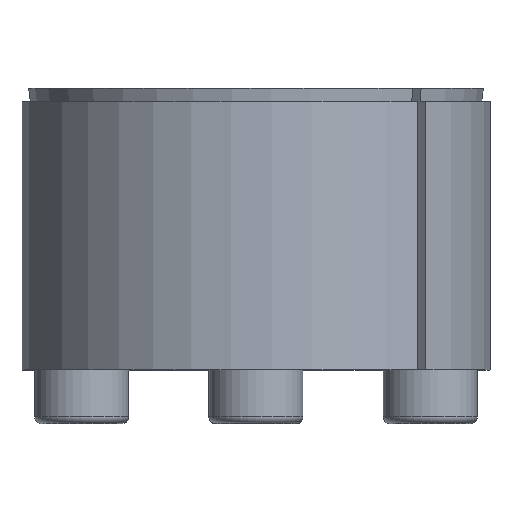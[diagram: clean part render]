
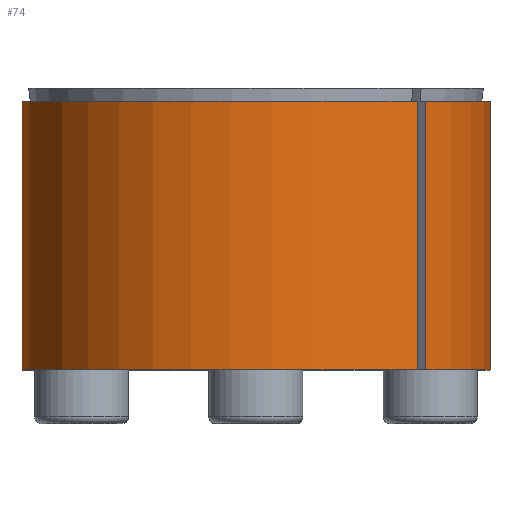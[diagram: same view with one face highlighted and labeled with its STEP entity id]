
A CAD part, top view. The second image highlights one B-rep face of the part: STEP entity #74.
In plain terms, the highlighted cylindrical face has radius 17.5 mm (diameter 35 mm), a partial arc.
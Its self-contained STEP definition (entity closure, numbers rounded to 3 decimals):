
#74 = ADVANCED_FACE( '', ( #145 ), #146, .T. );
#145 = FACE_OUTER_BOUND( '', #221, .T. );
#146 = CYLINDRICAL_SURFACE( '', #222, 17.5 );
#221 = EDGE_LOOP( '', ( #356, #357, #358, #359 ) );
#222 = AXIS2_PLACEMENT_3D( '', #360, #361, #362 );
#356 = ORIENTED_EDGE( '', *, *, #468, .T. );
#357 = ORIENTED_EDGE( '', *, *, #485, .T. );
#358 = ORIENTED_EDGE( '', *, *, #499, .T. );
#359 = ORIENTED_EDGE( '', *, *, #500, .T. );
#360 = CARTESIAN_POINT( '', ( 0., -60., 0. ) );
#361 = DIRECTION( '', ( 0., -1., 0. ) );
#362 = DIRECTION( '', ( 0., 0., 1. ) );
#468 = EDGE_CURVE( '', #580, #578, #581, .T. );
#485 = EDGE_CURVE( '', #578, #608, #611, .F. );
#499 = EDGE_CURVE( '', #608, #628, #629, .T. );
#500 = EDGE_CURVE( '', #628, #580, #630, .T. );
#578 = VERTEX_POINT( '', #793 );
#580 = VERTEX_POINT( '', #796 );
#581 = CIRCLE( '', #797, 17.5 );
#608 = VERTEX_POINT( '', #829 );
#611 = LINE( '', #833, #834 );
#628 = VERTEX_POINT( '', #864 );
#629 = CIRCLE( '', #865, 17.5 );
#630 = LINE( '', #866, #867 );
#793 = CARTESIAN_POINT( '', ( 12.68, 9.5, 12.061 ) );
#796 = CARTESIAN_POINT( '', ( 12.061, 9.5, 12.68 ) );
#797 = AXIS2_PLACEMENT_3D( '', #923, #924, #925 );
#829 = CARTESIAN_POINT( '', ( 12.68, -10.5, 12.061 ) );
#833 = CARTESIAN_POINT( '', ( 12.68, -60., 12.061 ) );
#834 = VECTOR( '', #953, 1000. );
#864 = CARTESIAN_POINT( '', ( 12.061, -10.5, 12.68 ) );
#865 = AXIS2_PLACEMENT_3D( '', #964, #965, #966 );
#866 = CARTESIAN_POINT( '', ( 12.061, -60., 12.68 ) );
#867 = VECTOR( '', #967, 1000. );
#923 = CARTESIAN_POINT( '', ( 0., 9.5, 0. ) );
#924 = DIRECTION( '', ( 0., -1., 0. ) );
#925 = DIRECTION( '', ( 0., 0., -1. ) );
#953 = DIRECTION( '', ( 0., 1., 0. ) );
#964 = CARTESIAN_POINT( '', ( 0., -10.5, 0. ) );
#965 = DIRECTION( '', ( 0., 1., 0. ) );
#966 = DIRECTION( '', ( 0., 0., 1. ) );
#967 = DIRECTION( '', ( 0., 1., 0. ) );
